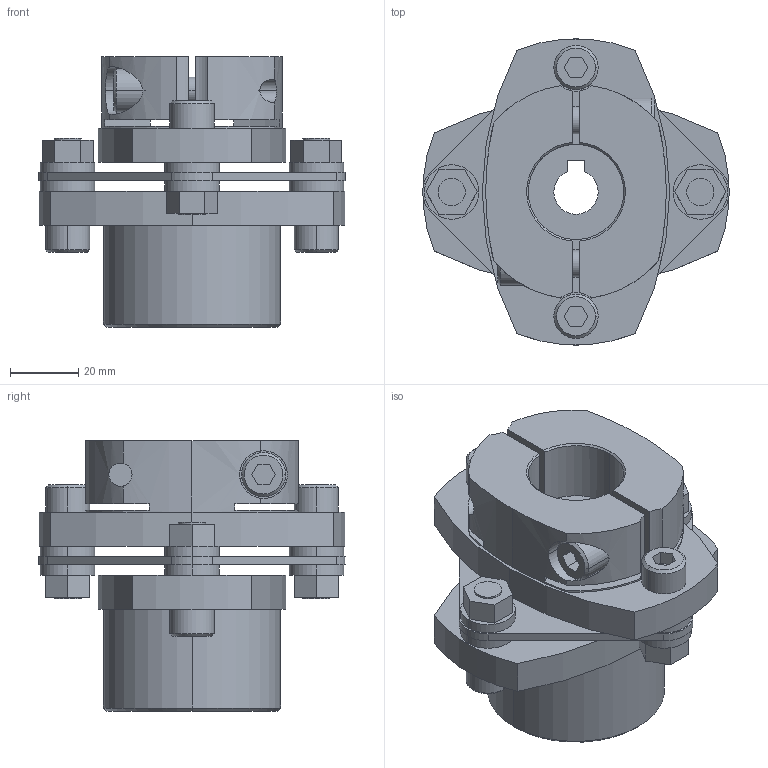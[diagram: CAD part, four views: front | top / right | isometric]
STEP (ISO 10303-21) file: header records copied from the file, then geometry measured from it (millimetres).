
FILE_DESCRIPTION((''),'2;1');
FILE_NAME('LCS-90M-16L亊28B.stp','2011-08-20T16:35:52',(''),(''),'AutoCAD STEP 2000i','AutoCAD 2000i',', , ');
FILE_SCHEMA(('CONFIG_CONTROL_DESIGN'));
Length unit declared in the file: millimetre
Products named in the file (7): LCS-90M-16L×28B; 忣兜1; LC90-B028; LC90M-L016; LC90-B019-1; LC90-B019; LCS90-ITA
Assembly tree (6 placements, depth 2):
  LCS-90M-16L×28B
    忣兜1
    LC90-B028
    LC90M-L016
    LC90-B019-1
    LC90-B019
    LCS90-ITA
Bounding box: 90 x 89.94 x 79.5 mm (x, y, z)
Volume: 191631.2 mm3; surface area: 50236.9 mm2
Topology: 1 solids, 1 shells, 234 faces, 588 edges, 386 vertices
Faces by surface type: plane 115, cylinder 96, cone 23
Entity records: 7519 total; most frequent: CARTESIAN_POINT 1523, DIRECTION 1274, ORIENTED_EDGE 1176, EDGE_CURVE 588, AXIS2_PLACEMENT_3D 467, VERTEX_POINT 386, VECTOR 340, LINE 340
